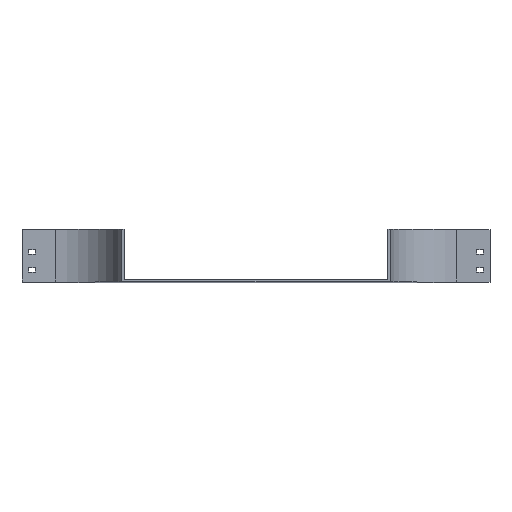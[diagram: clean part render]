
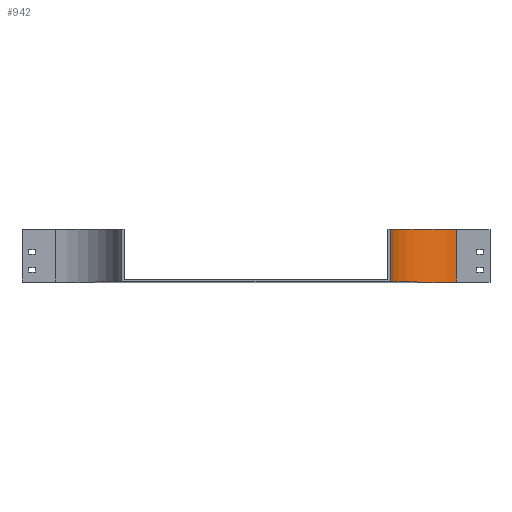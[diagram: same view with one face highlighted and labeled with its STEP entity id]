
A CAD part, top view. The second image highlights one B-rep face of the part: STEP entity #942.
In plain terms, the highlighted cylindrical face has radius 100 mm (diameter 200 mm), a partial arc.
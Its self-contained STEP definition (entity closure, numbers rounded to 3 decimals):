
#63 = CARTESIAN_POINT ( 'NONE',  ( 0., 79., 0. ) ) ;
#167 = EDGE_CURVE ( 'NONE', #352, #1465, #3326, .T. ) ;
#242 = FACE_OUTER_BOUND ( 'NONE', #340, .T. ) ;
#340 = EDGE_LOOP ( 'NONE', ( #3696, #490, #452, #2191 ) ) ;
#352 = VERTEX_POINT ( 'NONE', #3148 ) ;
#452 = ORIENTED_EDGE ( 'NONE', *, *, #167, .F. ) ;
#490 = ORIENTED_EDGE ( 'NONE', *, *, #2739, .F. ) ;
#560 = CARTESIAN_POINT ( 'NONE',  ( 0., 79., 0. ) ) ;
#883 = DIRECTION ( 'NONE',  ( 0., 0., -1. ) ) ;
#942 = ADVANCED_FACE ( 'NONE', ( #242 ), #3195, .F. ) ;
#1165 = DIRECTION ( 'NONE',  ( 0., -1., 0. ) ) ;
#1248 = CARTESIAN_POINT ( 'NONE',  ( 0., 0., -100. ) ) ;
#1306 = VECTOR ( 'NONE', #1732, 1000. ) ;
#1465 = VERTEX_POINT ( 'NONE', #2297 ) ;
#1479 = LINE ( 'NONE', #3784, #1306 ) ;
#1545 = VERTEX_POINT ( 'NONE', #1248 ) ;
#1732 = DIRECTION ( 'NONE',  ( 0., -1., 0. ) ) ;
#1870 = CARTESIAN_POINT ( 'NONE',  ( 0., 0., 0. ) ) ;
#1915 = EDGE_CURVE ( 'NONE', #3321, #1545, #3097, .T. ) ;
#1938 = CARTESIAN_POINT ( 'NONE',  ( -100., 0., 0. ) ) ;
#2093 = DIRECTION ( 'NONE',  ( 0., 0., -1. ) ) ;
#2102 = DIRECTION ( 'NONE',  ( 0., -1., 0. ) ) ;
#2123 = AXIS2_PLACEMENT_3D ( 'NONE', #1870, #3551, #3008 ) ;
#2191 = ORIENTED_EDGE ( 'NONE', *, *, #3169, .T. ) ;
#2297 = CARTESIAN_POINT ( 'NONE',  ( 0., 79., -100. ) ) ;
#2394 = CARTESIAN_POINT ( 'NONE',  ( -100., 79., 0. ) ) ;
#2638 = VECTOR ( 'NONE', #2102, 1000. ) ;
#2655 = AXIS2_PLACEMENT_3D ( 'NONE', #63, #2751, #2093 ) ;
#2675 = LINE ( 'NONE', #2394, #2638 ) ;
#2739 = EDGE_CURVE ( 'NONE', #1465, #1545, #1479, .T. ) ;
#2751 = DIRECTION ( 'NONE',  ( 0., -1., 0. ) ) ;
#3008 = DIRECTION ( 'NONE',  ( 0., 0., -1. ) ) ;
#3097 = CIRCLE ( 'NONE', #2123, 100. ) ;
#3148 = CARTESIAN_POINT ( 'NONE',  ( -100., 79., 0. ) ) ;
#3169 = EDGE_CURVE ( 'NONE', #352, #3321, #2675, .T. ) ;
#3195 = CYLINDRICAL_SURFACE ( 'NONE', #3347, 100. ) ;
#3321 = VERTEX_POINT ( 'NONE', #1938 ) ;
#3326 = CIRCLE ( 'NONE', #2655, 100. ) ;
#3347 = AXIS2_PLACEMENT_3D ( 'NONE', #560, #1165, #883 ) ;
#3551 = DIRECTION ( 'NONE',  ( 0., -1., 0. ) ) ;
#3696 = ORIENTED_EDGE ( 'NONE', *, *, #1915, .T. ) ;
#3784 = CARTESIAN_POINT ( 'NONE',  ( 0., 79., -100. ) ) ;
